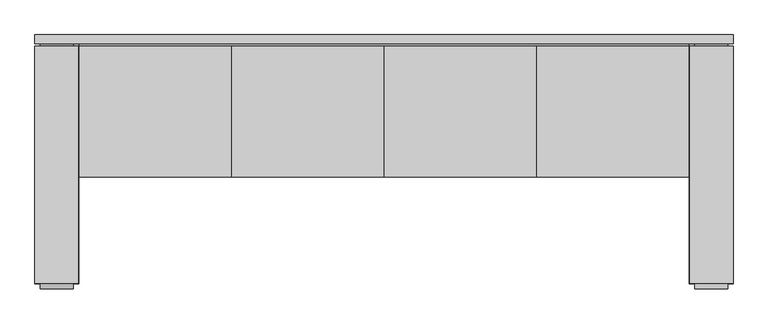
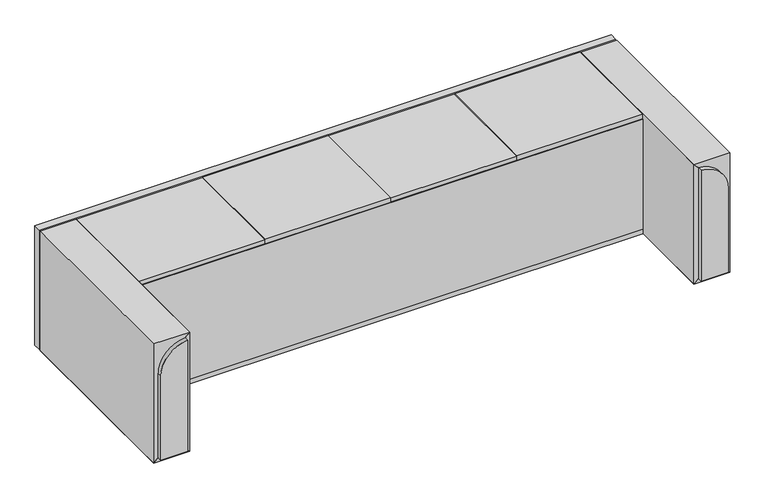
"""IFC4 building model written with IfcOpenShell, lengths in millimetres: proxy geometry, BASYS^CREDENZA 4_4 DOORS ROUND LEG-PARTS SOLID."""

import ifcopenshell
import ifcopenshell.guid

model = None  # the IFC model being written
_history = None  # IfcOwnerHistory: only IFC2X3 demands one
_inside = {}  # id of a spatial element -> (the spatial element, [elements in it])
_under = {}  # id of a project, library or spatial element -> (it, [spatial elements below it])
_declared = {}  # id of a project -> (the project, [libraries it declares])
_typed = {}  # id of a type object -> (the type object, [elements of that type])
_made_of = {}  # id of a material, layer set ... -> (it, [elements and type objects made of it])


def new_model(schema):
    """Start an empty IFC model of exactly this schema.

    Asked for "IFC4X3", IfcOpenShell would pick the latest addendum, in which some entities
    have other attributes; the version numbers below select the first issue.
    IFC2X3 requires an IfcOwnerHistory on every rooted entity: one is made here for all.
    """
    global model, _history
    if schema == "IFC4X3":
        model = ifcopenshell.file(schema_version=(4, 3, 0, 0))
    else:
        model = ifcopenshell.file(schema=schema)
    _inside.clear()
    _under.clear()
    _declared.clear()
    _typed.clear()
    _made_of.clear()
    _history = None
    if model.schema == "IFC2X3":
        org = make("IfcOrganization", Name="unknown")
        user = make(
            "IfcPersonAndOrganization",
            ThePerson=make("IfcPerson", FamilyName="unknown"),
            TheOrganization=org,
        )
        app = make(
            "IfcApplication",
            ApplicationDeveloper=org,
            Version="unknown",
            ApplicationFullName="unknown",
            ApplicationIdentifier="unknown",
        )
        _history = make(
            "IfcOwnerHistory",
            OwningUser=user,
            OwningApplication=app,
            ChangeAction="ADDED",
            CreationDate=0,
        )
    return model


def make(cls, **values):
    """One entity of the class cls with the attributes given. An attribute that is None is left unset."""
    return model.create_entity(
        cls, **{name: value for name, value in values.items() if value is not None}
    )


def rooted(cls, **values):
    """An entity with a GlobalId (a new one), such as an element, a storey or a relation."""
    return make(cls, GlobalId=ifcopenshell.guid.new(), OwnerHistory=_history, **values)


def si_unit(unit_type, name, prefix=None):
    """IfcSIUnit, for example si_unit("LENGTHUNIT", "METRE", prefix="MILLI")."""
    return make("IfcSIUnit", UnitType=unit_type, Prefix=prefix, Name=name)


def assignment(units):
    """IfcUnitAssignment: the units of a project."""
    return None if units is None else make("IfcUnitAssignment", Units=units)


def point(xyz):
    """IfcCartesianPoint."""
    return None if xyz is None else make("IfcCartesianPoint", Coordinates=xyz)


def direction(xyz):
    """IfcDirection."""
    return None if xyz is None else make("IfcDirection", DirectionRatios=xyz)


def frame(location, z_axis=None, x_axis=None):
    """IfcAxis2Placement3D, a coordinate frame: its origin and axes. An axis left out is left unset."""
    return make(
        "IfcAxis2Placement3D",
        Location=point(location),
        Axis=direction(z_axis),
        RefDirection=direction(x_axis),
    )


def frame_2d(location, x_axis=None):
    """IfcAxis2Placement2D, a coordinate frame in the plane: its origin and x axis."""
    return make(
        "IfcAxis2Placement2D", Location=point(location), RefDirection=direction(x_axis)
    )


def origin():
    """The frame at (0, 0, 0) with its axes left unset."""
    return frame((0.0, 0.0, 0.0))


def place(relative_to, where):
    """IfcLocalPlacement: puts the frame where relative to a parent placement (None: the world)."""
    return make(
        "IfcLocalPlacement", PlacementRelTo=relative_to, RelativePlacement=where
    )


def context(
    kind, dimensions, precision=None, world=None, true_north=None, identifier=None
):
    """IfcGeometricRepresentationContext, for example the 3D "Model" context."""
    return make(
        "IfcGeometricRepresentationContext",
        ContextIdentifier=identifier,
        ContextType=kind,
        CoordinateSpaceDimension=dimensions,
        Precision=precision,
        WorldCoordinateSystem=world,
        TrueNorth=true_north,
    )


def project(units=None, contexts=None):
    """IfcProject with its units and contexts."""
    return rooted(
        "IfcProject",
        Name="project",
        RepresentationContexts=contexts,
        UnitsInContext=assignment(units),
    )


def spatial(cls, under=None, at=None, **own):
    """A site, building, storey or space (cls), placed at a placement, below another one or the project."""
    s = rooted(cls, ObjectPlacement=at, **own)
    if under is not None:
        _under.setdefault(under.id(), (under, []))[1].append(s)
    return s


def polyline(points):
    """IfcPolyline through the points."""
    return make("IfcPolyline", Points=[point(p) for p in points])


def circle_curve(where, radius):
    """IfcCircle in the frame where."""
    return make("IfcCircle", Position=where, Radius=radius)


def trimmed(basis, trim1, trim2, sense, master):
    """IfcTrimmedCurve: the piece of a basis curve between two trims."""
    return make(
        "IfcTrimmedCurve",
        BasisCurve=basis,
        Trim1=trim1,
        Trim2=trim2,
        SenseAgreement=sense,
        MasterRepresentation=master,
    )


def segment(curve, same_sense, transition):
    """IfcCompositeCurveSegment."""
    return make(
        "IfcCompositeCurveSegment",
        Transition=transition,
        SameSense=same_sense,
        ParentCurve=curve,
    )


def composite_curve(segments, self_intersect=None):
    """IfcCompositeCurve: segments joined end to end."""
    return make("IfcCompositeCurve", Segments=segments, SelfIntersect=self_intersect)


def outline(outer, holes=None, kind="AREA"):
    """IfcArbitraryClosedProfileDef: a profile drawn as a closed curve; with holes, ...WithVoids."""
    if holes is None:
        return make("IfcArbitraryClosedProfileDef", ProfileType=kind, OuterCurve=outer)
    return make(
        "IfcArbitraryProfileDefWithVoids",
        ProfileType=kind,
        OuterCurve=outer,
        InnerCurves=holes,
    )


def extrude(swept, where, along, depth):
    """IfcExtrudedAreaSolid: the profile swept, set in the frame where, extruded along a direction by depth."""
    return make(
        "IfcExtrudedAreaSolid",
        SweptArea=swept,
        Position=where,
        ExtrudedDirection=direction(along),
        Depth=depth,
    )


def shape(context_of_items, identifier, shape_type, items):
    """IfcShapeRepresentation: the items that make up one representation, for example the "Body"."""
    return make(
        "IfcShapeRepresentation",
        ContextOfItems=context_of_items,
        RepresentationIdentifier=identifier,
        RepresentationType=shape_type,
        Items=items,
    )


def source(mapping_origin, context_of_items, identifier, shape_type, items):
    """IfcRepresentationMap: a shape defined once, which mapped items show again and again."""
    return make(
        "IfcRepresentationMap",
        MappingOrigin=mapping_origin,
        MappedRepresentation=shape(context_of_items, identifier, shape_type, items),
    )


def transform(
    local_origin,
    x_axis=None,
    y_axis=None,
    z_axis=None,
    scale=None,
    scale2=None,
    scale3=None,
    uniform=True,
):
    """IfcCartesianTransformationOperator3D, or its non-uniform kind. x_axis, y_axis, z_axis: its Axis1, 2, 3."""
    if uniform:
        return make(
            "IfcCartesianTransformationOperator3D",
            Axis1=direction(x_axis),
            Axis2=direction(y_axis),
            LocalOrigin=point(local_origin),
            Scale=scale,
            Axis3=direction(z_axis),
        )
    return make(
        "IfcCartesianTransformationOperator3DnonUniform",
        Axis1=direction(x_axis),
        Axis2=direction(y_axis),
        LocalOrigin=point(local_origin),
        Scale=scale,
        Axis3=direction(z_axis),
        Scale2=scale2,
        Scale3=scale3,
    )


def mapped(mapping_source, mapping_target):
    """IfcMappedItem: shows the shape of a source again, moved by a transform."""
    return make(
        "IfcMappedItem", MappingSource=mapping_source, MappingTarget=mapping_target
    )


def made_of(thing, what):
    """Note that an element or type object is made of a material, layer set ...; save() writes the relation."""
    if what is not None:
        _made_of.setdefault(what.id(), (what, []))[1].append(thing)
    return thing


def element(
    cls,
    number,
    at=None,
    inside=None,
    cuts=None,
    type_object=None,
    material=None,
    context=None,
    identifier="Body",
    shape_type=None,
    held_by="IfcProductDefinitionShape",
    body=None,
    shapes=None,
    **own,
):
    """One element of the class cls, such as IfcWall. Its Tag is "e" and its number.

    at: its placement. inside: the storey or other place that contains it. cuts: it is an
    opening in that element (IfcRelVoidsElement). A single representation is given by context,
    identifier, shape_type and body (its items); several are given by shapes. held_by: the class
    of the entity that holds the representations. save() writes the other relations.
    """
    e = rooted(cls, Tag="e%d" % number, ObjectPlacement=at, **own)
    if body is not None:
        shapes = [shape(context, identifier, shape_type, body)]
    if shapes is not None:
        e.Representation = make(held_by, Representations=shapes)
    if inside is not None:
        _inside.setdefault(inside.id(), (inside, []))[1].append(e)
    if cuts is not None:
        rooted(
            "IfcRelVoidsElement", RelatingBuildingElement=cuts, RelatedOpeningElement=e
        )
    if type_object is not None:
        _typed.setdefault(type_object.id(), (type_object, []))[1].append(e)
    return made_of(e, material)


def aggregate(whole, parts):
    """IfcRelAggregates: a whole, such as a stair, and the parts it consists of."""
    return rooted("IfcRelAggregates", RelatingObject=whole, RelatedObjects=parts)


def save(model, path):
    """Write the relations noted so far, then the file.

    IfcRelAggregates (storeys below a building ...), IfcRelContainedInSpatialStructure (elements
    in a storey), IfcRelDefinesByType, IfcRelAssociatesMaterial and IfcRelDeclares: one each for
    every whole, place, type object, material and project.
    """
    for whole, parts in _under.values():
        aggregate(whole, parts)
    for where, things in _inside.values():
        rooted(
            "IfcRelContainedInSpatialStructure",
            RelatedElements=things,
            RelatingStructure=where,
        )
    for kind, things in _typed.values():
        rooted("IfcRelDefinesByType", RelatedObjects=things, RelatingType=kind)
    for what, things in _made_of.values():
        rooted("IfcRelAssociatesMaterial", RelatedObjects=things, RelatingMaterial=what)
    for by, libraries in _declared.values():
        rooted("IfcRelDeclares", RelatingContext=by, RelatedDefinitions=libraries)
    model.write(path)


def generic_models_00d29a90(model_context):
    return source(origin(), model_context, "Body", "SweptSolid", [
        extrude(outline(composite_curve([segment(trimmed(circle_curve(frame_2d((-139.7, 139.7)), 120.65), [point((-19.2172211, 133.35))], [point((-139.7, 19.05))], False, "CARTESIAN"), True, "CONTINUOUS"), segment(polyline([(-139.7, 19.05), (-514.35, 19.05), (-514.35, 133.35), (-19.2172211, 133.35)]), True, "CONTINUOUS")], self_intersect=False)), frame((0.0, -858.8375, 0.0), z_axis=(0.0, 1.0, 0.0), x_axis=(0.0, 0.0, 1.0)), (0.0, 0.0, 1.0), 38.1),
        extrude(outline(polyline([(2286.0, -9.525), (2286.0, -466.725), (152.4, -466.725), (152.4, -9.525), (2286.0, -9.525)])), frame((0.0, 0.0, -533.4), z_axis=(0.0, 0.0, 1.0), x_axis=(1.0, 0.0, 0.0)), (0.0, 0.0, 1.0), 19.05),
        extrude(outline(polyline([(-533.4, 152.4), (0.0, 152.4), (-19.2172211, 133.35), (-514.35, 133.35), (-533.4, 152.4)])), frame((0.0, -839.7875, 0.0), z_axis=(0.0, 1.0, 0.0), x_axis=(0.0, 0.0, 1.0)), (0.0, 0.0, 1.0), 830.2625),
        extrude(outline(composite_curve([segment(trimmed(circle_curve(frame_2d((-139.7, 2298.7)), 120.65), [point((-139.7, 2419.35))], [point((-19.2172211, 2305.05))], False, "CARTESIAN"), True, "CONTINUOUS"), segment(polyline([(-19.2172211, 2305.05), (-514.35, 2305.05), (-514.35, 2419.35), (-139.7, 2419.35)]), True, "CONTINUOUS")], self_intersect=False)), frame((0.0, -858.8375, 0.0), z_axis=(0.0, 1.0, 0.0), x_axis=(0.0, 0.0, 1.0)), (0.0, 0.0, 1.0), 38.1),
        extrude(outline(polyline([(0.0, 2286.0), (-533.4, 2286.0), (-514.35, 2305.05), (-19.2172211, 2305.05), (0.0, 2286.0)])), frame((0.0, -839.7875, 0.0), z_axis=(0.0, 1.0, 0.0), x_axis=(0.0, 0.0, 1.0)), (0.0, 0.0, 1.0), 830.2625),
        extrude(outline(polyline([(2286.0, -466.725), (152.4, -466.725), (152.4, -447.675), (2286.0, -447.675), (2286.0, -466.725)])), frame((0.0, 0.0, -514.35), z_axis=(0.0, 0.0, 1.0), x_axis=(1.0, 0.0, 0.0)), (0.0, 0.0, 1.0), 492.125),
        extrude(outline(composite_curve([segment(polyline([(0.0, 2438.4), (0.0, 2286.0), (-19.2172211, 2305.05)]), True, "CONTINUOUS"), segment(trimmed(circle_curve(frame_2d((-139.7, 2298.7)), 120.65), [point((-19.2172211, 2305.05))], [point((-139.7, 2419.35))], True, "CARTESIAN"), True, "CONTINUOUS"), segment(polyline([(-139.7, 2419.35), (-514.35, 2419.35), (-533.4, 2438.4), (0.0, 2438.4)]), True, "CONTINUOUS")], self_intersect=False)), frame((0.0, -839.7875, 0.0), z_axis=(0.0, 1.0, 0.0), x_axis=(0.0, 0.0, 1.0)), (0.0, 0.0, 1.0), 830.2625),
        extrude(outline(polyline([(2266.95, -28.575), (2286.0, -28.575), (2286.0, -447.675), (2266.95, -447.675), (2266.95, -28.575)])), frame((0.0, 0.0, -514.35), z_axis=(0.0, 0.0, 1.0), x_axis=(1.0, 0.0, 0.0)), (0.0, 0.0, 1.0), 492.125),
        extrude(outline(polyline([(-457.2, 76.2), (-533.4, 0.0), (-533.4, 152.4), (-457.2, 76.2)])), frame((0.0, -839.7875, 0.0), z_axis=(0.0, 1.0, 0.0), x_axis=(0.0, 0.0, 1.0)), (0.0, 0.0, 1.0), 830.2625),
        extrude(outline(polyline([(171.45, -447.675), (152.4, -447.675), (152.4, -28.575), (171.45, -28.575), (171.45, -447.675)])), frame((0.0, 0.0, -514.35), z_axis=(0.0, 0.0, 1.0), x_axis=(1.0, 0.0, 0.0)), (0.0, 0.0, 1.0), 492.125),
        extrude(outline(polyline([(1753.1953125, -466.725), (1753.1953125, -9.525), (2283.61875, -9.525), (2283.61875, -466.725), (1753.1953125, -466.725)])), frame((0.0, 0.0, -19.05), z_axis=(0.0, 0.0, 1.0), x_axis=(1.0, 0.0, 0.0)), (0.0, 0.0, 1.0), 19.05),
        extrude(outline(polyline([(687.5859375, -466.725), (687.5859375, -9.525), (1218.009375, -9.525), (1218.009375, -466.725), (687.5859375, -466.725)])), frame((0.0, 0.0, -19.05), z_axis=(0.0, 0.0, 1.0), x_axis=(1.0, 0.0, 0.0)), (0.0, 0.0, 1.0), 19.05),
        extrude(outline(polyline([(2286.0, -28.575), (152.4, -28.575), (152.4, 0.0), (2286.0, 0.0), (2286.0, -28.575)])), frame((0.0, 0.0, -514.35), z_axis=(0.0, 0.0, 1.0), x_axis=(1.0, 0.0, 0.0)), (0.0, 0.0, 1.0), 492.125),
        extrude(outline(composite_curve([segment(polyline([(-19.2172211, 2305.05), (-19.2172211, 2286.0), (-514.35, 2286.0), (-514.35, 2419.35), (-139.7, 2419.35)]), True, "CONTINUOUS"), segment(trimmed(circle_curve(frame_2d((-139.7, 2298.7)), 120.65), [point((-139.7, 2419.35))], [point((-19.2172211, 2305.05))], False, "CARTESIAN"), True, "CONTINUOUS")], self_intersect=False)), frame((0.0, -28.575, 0.0), z_axis=(0.0, 1.0, 0.0), x_axis=(0.0, 0.0, 1.0)), (0.0, 0.0, 1.0), 28.575),
        extrude(outline(polyline([(1220.390625, -466.725), (1220.390625, -9.525), (1750.8140625, -9.525), (1750.8140625, -466.725), (1220.390625, -466.725)])), frame((0.0, 0.0, -19.05), z_axis=(0.0, 0.0, 1.0), x_axis=(1.0, 0.0, 0.0)), (0.0, 0.0, 1.0), 19.05),
        extrude(outline(composite_curve([segment(polyline([(0.0, 0.0), (-533.4, 0.0), (-514.35, 19.05), (-139.7, 19.05)]), True, "CONTINUOUS"), segment(trimmed(circle_curve(frame_2d((-139.7, 139.7)), 120.65), [point((-139.7, 19.05))], [point((-19.2172211, 133.35))], True, "CARTESIAN"), True, "CONTINUOUS"), segment(polyline([(-19.2172211, 133.35), (0.0, 152.4), (0.0, 0.0)]), True, "CONTINUOUS")], self_intersect=False)), frame((0.0, -839.7875, 0.0), z_axis=(0.0, 1.0, 0.0), x_axis=(0.0, 0.0, 1.0)), (0.0, 0.0, 1.0), 830.2625),
        extrude(outline(polyline([(154.78125, -466.725), (154.78125, -9.525), (685.2046875, -9.525), (685.2046875, -466.725), (154.78125, -466.725)])), frame((0.0, 0.0, -19.05), z_axis=(0.0, 0.0, 1.0), x_axis=(1.0, 0.0, 0.0)), (0.0, 0.0, 1.0), 19.05),
        extrude(outline(polyline([(2438.4, 0.0), (0.0, 0.0), (0.0, 30.1625), (2438.4, 30.1625), (2438.4, 0.0)])), frame((0.0, 0.0, -533.4), z_axis=(0.0, 0.0, 1.0), x_axis=(1.0, 0.0, 0.0)), (0.0, 0.0, 1.0), 533.4),
        extrude(outline(polyline([(-457.2, 2362.2), (-533.4, 2286.0), (-533.4, 2438.4), (-457.2, 2362.2)])), frame((0.0, -839.7875, 0.0), z_axis=(0.0, 1.0, 0.0), x_axis=(0.0, 0.0, 1.0)), (0.0, 0.0, 1.0), 830.2625),
        extrude(outline(composite_curve([segment(polyline([(-19.2172211, 152.4), (-19.2172211, 133.35)]), True, "CONTINUOUS"), segment(trimmed(circle_curve(frame_2d((-139.7, 139.7)), 120.65), [point((-19.2172211, 133.35))], [point((-139.7, 19.05))], False, "CARTESIAN"), True, "CONTINUOUS"), segment(polyline([(-139.7, 19.05), (-514.35, 19.05), (-514.35, 152.4), (-19.2172211, 152.4)]), True, "CONTINUOUS")], self_intersect=False)), frame((0.0, -28.575, 0.0), z_axis=(0.0, 1.0, 0.0), x_axis=(0.0, 0.0, 1.0)), (0.0, 0.0, 1.0), 28.575),
    ])


if __name__ == "__main__":
    model = new_model("IFC4")
    model_context = context("Model", 3, world=origin())
    ifc_project = project(units=[si_unit("LENGTHUNIT", "METRE", prefix="MILLI")], contexts=[model_context])
    site = spatial("IfcSite", under=ifc_project)
    building = spatial("IfcBuilding", under=site)
    placement = place(None, origin())
    generic_models_shape = generic_models_00d29a90(model_context)
    element("IfcBuildingElementProxy", 1, Name="BASYS^CREDENZA 4_4 DOORS ROUND LEG-PARTS SOLID", ObjectType="BASYS^CREDENZA 4_4 DOORS ROUND LEG-PARTS SOLID", at=placement, inside=building, context=model_context, shape_type="MappedRepresentation", body=[
        mapped(generic_models_shape, transform((0.0, 0.0, 0.0), x_axis=(1.0, 0.0, 0.0), y_axis=(0.0, 1.0, 0.0), z_axis=(0.0, 0.0, 1.0))),
    ])
    save(model, "model.ifc")
